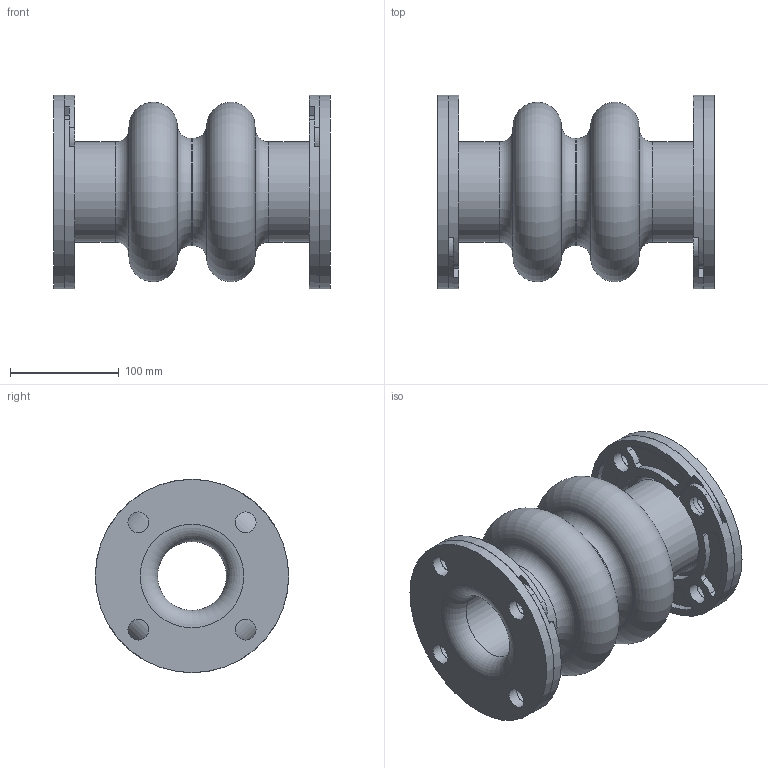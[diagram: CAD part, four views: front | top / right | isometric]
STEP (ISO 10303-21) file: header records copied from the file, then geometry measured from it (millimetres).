
FILE_DESCRIPTION(/* description */ (''),/* implementation_level */ '2;1');
FILE_NAME(/* name */ 'C:\001_Work\Designs\Mercer2014\MQInventor2014\RajR\500 Style\502\STP\502 2.5IDx10FF.stp',/* time_stamp */ '2016-03-16T14:04:22-04:00',/* author */ ('mquog'),/* organization */ (''),/* preprocessor_version */ 'ST-DEVELOPER v15.2',/* originating_system */ 'Autodesk Inventor 2014',/* authorisation */ '');
FILE_SCHEMA (('AUTOMOTIVE_DESIGN { 1 0 10303 214 3 1 1 }'));
Length unit declared in the file: centimetre
Products named in the file (1): 502 2.5IDx10FF
Bounding box: 254 x 177.8 x 177.8 mm (x, y, z)
Volume: 2130371.1 mm3; surface area: 400297.5 mm2
Topology: 3 solids, 3 shells, 180 faces, 464 edges, 296 vertices
Faces by surface type: cylinder 108, plane 52, torus 12, cone 8
Full cylindrical faces by diameter (mm): 19.05 x20, 63.5 x3, 92.075 x2, 98.425 x1, 177.8 x2
Entity records: 5576 total; most frequent: DIRECTION 1026, CARTESIAN_POINT 885, ORIENTED_EDGE 824, AXIS2_PLACEMENT_3D 433, EDGE_CURVE 412, VERTEX_POINT 292, EDGE_LOOP 272, CIRCLE 252
